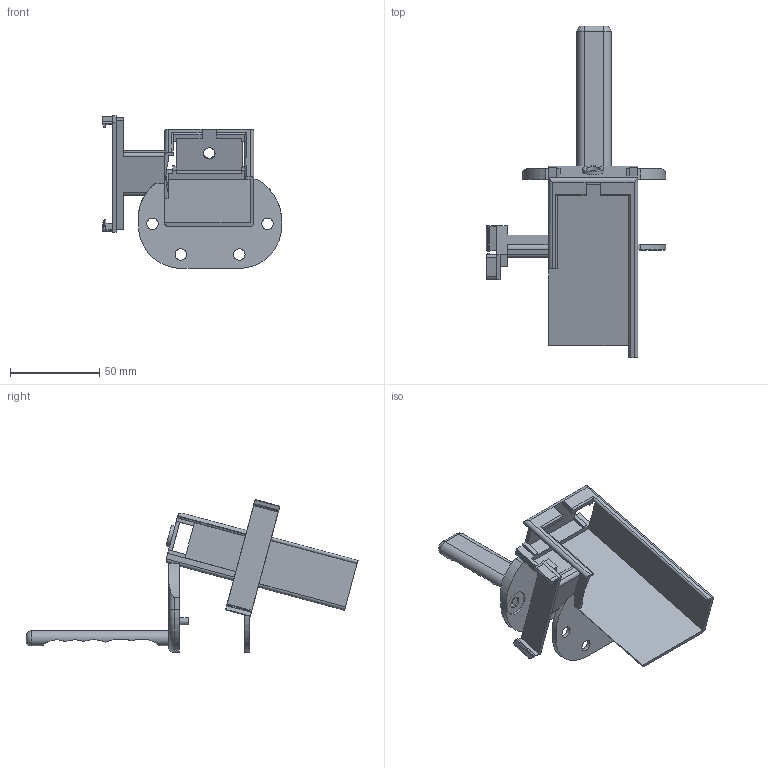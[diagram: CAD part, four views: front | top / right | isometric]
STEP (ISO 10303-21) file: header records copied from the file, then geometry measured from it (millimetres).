
FILE_DESCRIPTION(('Open CASCADE Model'),'2;1');
FILE_NAME('Open CASCADE Shape Model','2026-11-14T12:05:08',('Author'),( 'Open CASCADE'),'Open CASCADE STEP processor 8.0','Open CASCADE 8.0' ,'Unknown');
FILE_SCHEMA(('AUTOMOTIVE_DESIGN { 1 0 10303 214 1 1 1 1 }'));
Length unit declared in the file: millimetre
Products named in the file (1): Open CASCADE STEP translator 8.0 3
Bounding box: 100.51 x 186.03 x 85.69 mm (x, y, z)
Volume: 65405 mm3; surface area: 43420 mm2
Topology: 1 solids, 1 shells, 215 faces, 582 edges, 378 vertices
Faces by surface type: plane 146, cylinder 65, torus 2, revolution 2
Full cylindrical faces by diameter (mm): 4 x2, 6.4 x8, 6.6 x1, 8 x1, 12 x1, 14 x6
Entity records: 17091 total; most frequent: CARTESIAN_POINT 5639, DIRECTION 2077, LINE 1389, VECTOR 1389, ORIENTED_EDGE 1164, PCURVE 1164, DEFINITIONAL_REPRESENTATION 1164, EDGE_CURVE 582
